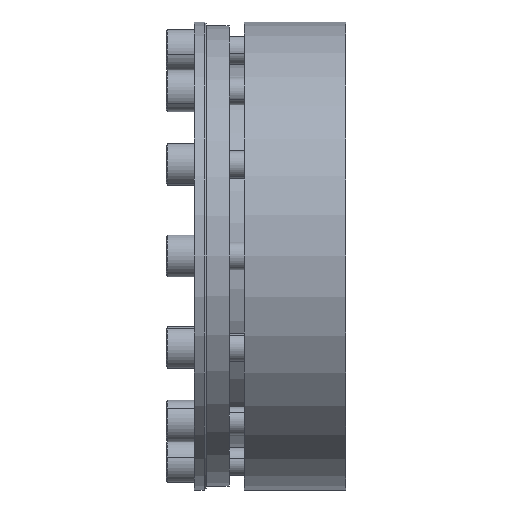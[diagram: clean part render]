
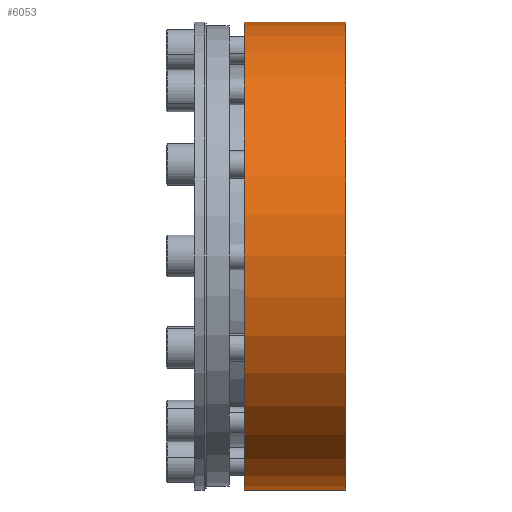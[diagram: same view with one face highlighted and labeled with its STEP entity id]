
A CAD part, front view. The second image highlights one B-rep face of the part: STEP entity #6053.
In plain terms, the highlighted cylindrical face has radius 117.5 mm (diameter 235 mm), a partial arc.
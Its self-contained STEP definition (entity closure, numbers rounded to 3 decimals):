
#1023 = DIRECTION ( 'NONE',  ( -1., 0., 0. ) ) ;
#1024 = VECTOR ( 'NONE', #1023, 1000. ) ;
#1025 = CARTESIAN_POINT ( 'NONE',  ( 0., 0., 117.5 ) ) ;
#1026 = LINE ( 'NONE', #1025, #1024 ) ;
#1027 = CARTESIAN_POINT ( 'NONE',  ( 25., 0., 117.5 ) ) ;
#1141 = CARTESIAN_POINT ( 'NONE',  ( 25., 0., -117.5 ) ) ;
#1142 = DIRECTION ( 'NONE',  ( -1., 0., 0. ) ) ;
#1143 = VECTOR ( 'NONE', #1142, 1000. ) ;
#1144 = CARTESIAN_POINT ( 'NONE',  ( 0., 0., -117.5 ) ) ;
#1145 = LINE ( 'NONE', #1144, #1143 ) ;
#1146 = CARTESIAN_POINT ( 'NONE',  ( 76., 0., -117.5 ) ) ;
#1147 = CARTESIAN_POINT ( 'NONE',  ( 76., 0., 117.5 ) ) ;
#1237 = DIRECTION ( 'NONE',  ( -1., 0., 0. ) ) ;
#1238 = CARTESIAN_POINT ( 'NONE',  ( 76., 0., 0. ) ) ;
#1239 = AXIS2_PLACEMENT_3D ( 'NONE', #1238, #1237, #1298 ) ;
#1240 = CIRCLE ( 'NONE', #1239, 117.5 ) ;
#1298 = DIRECTION ( 'NONE',  ( 0., 0., 1. ) ) ;
#1312 = DIRECTION ( 'NONE',  ( 0., 0., 1. ) ) ;
#1313 = DIRECTION ( 'NONE',  ( -1., 0., 0. ) ) ;
#1314 = CARTESIAN_POINT ( 'NONE',  ( 0., 0., 0. ) ) ;
#1315 = AXIS2_PLACEMENT_3D ( 'NONE', #1314, #1313, #1312 ) ;
#1317 = CYLINDRICAL_SURFACE ( 'NONE', #1315, 117.5 ) ;
#1318 = FACE_OUTER_BOUND ( 'NONE', #6054, .T. ) ;
#1377 = DIRECTION ( 'NONE',  ( 0., 0., 1. ) ) ;
#1378 = DIRECTION ( 'NONE',  ( -1., 0., 0. ) ) ;
#1379 = CARTESIAN_POINT ( 'NONE',  ( 25., 0., 0. ) ) ;
#1380 = AXIS2_PLACEMENT_3D ( 'NONE', #1379, #1378, #1377 ) ;
#1381 = CIRCLE ( 'NONE', #1380, 117.5 ) ;
#5876 = VERTEX_POINT ( 'NONE', #1027 ) ;
#5878 = EDGE_CURVE ( 'NONE', #5949, #5876, #1026, .T. ) ;
#5949 = VERTEX_POINT ( 'NONE', #1147 ) ;
#5950 = VERTEX_POINT ( 'NONE', #1146 ) ;
#5952 = EDGE_CURVE ( 'NONE', #5950, #5953, #1145, .T. ) ;
#5953 = VERTEX_POINT ( 'NONE', #1141 ) ;
#6018 = EDGE_CURVE ( 'NONE', #5950, #5949, #1240, .T. ) ;
#6053 = ADVANCED_FACE ( 'NONE', ( #1318 ), #1317, .T. ) ;
#6054 = EDGE_LOOP ( 'NONE', ( #6055, #6107, #6108, #6109 ) ) ;
#6055 = ORIENTED_EDGE ( 'NONE', *, *, #5952, .F. ) ;
#6107 = ORIENTED_EDGE ( 'NONE', *, *, #6018, .T. ) ;
#6108 = ORIENTED_EDGE ( 'NONE', *, *, #5878, .T. ) ;
#6109 = ORIENTED_EDGE ( 'NONE', *, *, #6110, .F. ) ;
#6110 = EDGE_CURVE ( 'NONE', #5953, #5876, #1381, .T. ) ;
